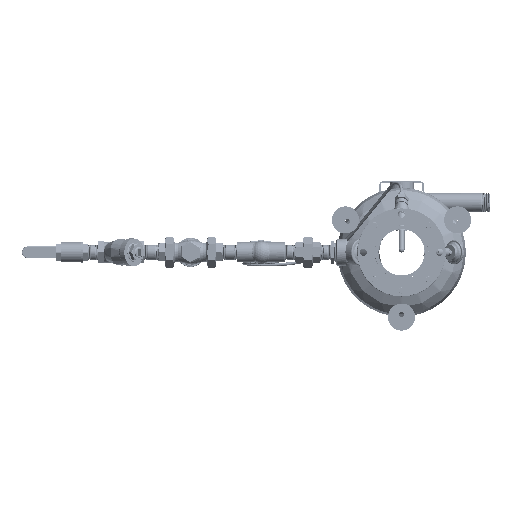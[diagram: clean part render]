
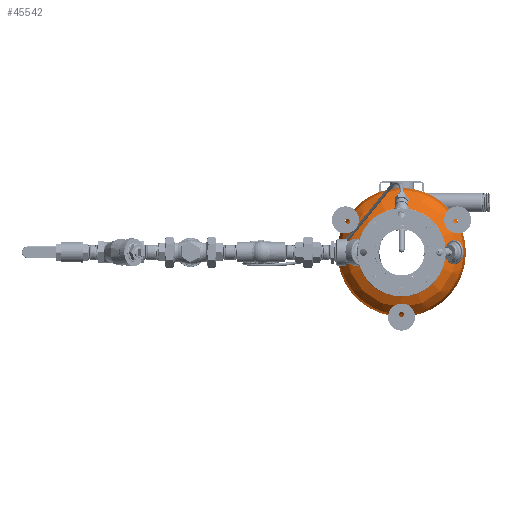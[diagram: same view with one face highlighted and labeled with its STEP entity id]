
A CAD part, front view. The second image highlights one B-rep face of the part: STEP entity #45542.
In plain terms, the highlighted free-form (B-spline) face has degree [2, 2] with [3, 9] control points.
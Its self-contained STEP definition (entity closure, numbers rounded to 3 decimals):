
#737=ELLIPSE('',#48878,8.,4.);
#799=(
BOUNDED_SURFACE()
B_SPLINE_SURFACE(2,2,((#85959,#85960,#85961,#85962,#85963,#85964,#85965,
#85966,#85967),(#85968,#85969,#85970,#85971,#85972,#85973,#85974,#85975,
#85976),(#85977,#85978,#85979,#85980,#85981,#85982,#85983,#85984,#85985)),
 .UNSPECIFIED.,.F.,.T.,.F.)
B_SPLINE_SURFACE_WITH_KNOTS((3,3),(3,2,2,2,3),(0.,1.571),
(0.,1.571,3.142,4.712,6.283),
 .UNSPECIFIED.)
GEOMETRIC_REPRESENTATION_ITEM()
RATIONAL_B_SPLINE_SURFACE(((1.,0.707,1.,0.707,1.,
0.707,1.,0.707,1.),(0.707,0.5,0.707,
0.5,0.707,0.5,0.707,0.5,0.707),(1.,
0.707,1.,0.707,1.,0.707,1.,0.707,
1.)))
REPRESENTATION_ITEM('')
SURFACE()
);
#4671=CIRCLE('',#48879,8.);
#4672=CIRCLE('',#48880,8.);
#7032=FACE_OUTER_BOUND('',#9672,.T.);
#9672=EDGE_LOOP('',(#31122,#31123,#31124,#31125,#31126,#31127));
#17143=B_SPLINE_CURVE_WITH_KNOTS('',3,(#85751,#85752,#85753,#85754,#85755,
#85756,#85757,#85758,#85759,#85760,#85761,#85762,#85763,#85764,#85765,#85766,
#85767,#85768,#85769,#85770),.UNSPECIFIED.,.F.,.F.,(4,2,2,2,2,2,2,2,2,4),
(-39.773,-39.441,-36.155,-32.868,
-29.581,-26.294,-23.007,-19.721,
-16.434,-13.258),.UNSPECIFIED.);
#17144=B_SPLINE_CURVE_WITH_KNOTS('',3,(#85771,#85772,#85773,#85774,#85775,
#85776,#85777,#85778,#85779,#85780,#85781,#85782,#85783,#85784,#85785,#85786,
#85787,#85788,#85789,#85790,#85791,#85792,#85793),.UNSPECIFIED.,.F.,.F.,
(4,2,2,2,2,3,2,2,2,2,4),(-13.258,-13.147,-9.86,
-6.574,-3.287,0.,1.861,3.722,
7.009,10.295,13.251),.UNSPECIFIED.);
#19166=VERTEX_POINT('',#85748);
#19167=VERTEX_POINT('',#85750);
#19171=VERTEX_POINT('',#85986);
#19172=VERTEX_POINT('',#85988);
#23839=EDGE_CURVE('',#19167,#19166,#17143,.T.);
#23840=EDGE_CURVE('',#19166,#19167,#17144,.T.);
#23846=EDGE_CURVE('',#19171,#19167,#737,.T.);
#23847=EDGE_CURVE('',#19172,#19171,#4671,.T.);
#23848=EDGE_CURVE('',#19171,#19172,#4672,.T.);
#31122=ORIENTED_EDGE('',*,*,#23839,.T.);
#31123=ORIENTED_EDGE('',*,*,#23840,.T.);
#31124=ORIENTED_EDGE('',*,*,#23846,.F.);
#31125=ORIENTED_EDGE('',*,*,#23847,.F.);
#31126=ORIENTED_EDGE('',*,*,#23848,.F.);
#31127=ORIENTED_EDGE('',*,*,#23846,.T.);
#45542=ADVANCED_FACE('',(#7032),#799,.T.);
#48878=AXIS2_PLACEMENT_3D('',#85987,#53948,#53949);
#48879=AXIS2_PLACEMENT_3D('',#85989,#53950,#53951);
#48880=AXIS2_PLACEMENT_3D('',#85990,#53952,#53953);
#53948=DIRECTION('center_axis',(0.,0.,1.));
#53949=DIRECTION('ref_axis',(1.,0.,0.));
#53950=DIRECTION('center_axis',(0.,-1.,0.));
#53951=DIRECTION('ref_axis',(1.,0.,0.));
#53952=DIRECTION('center_axis',(0.,-1.,0.));
#53953=DIRECTION('ref_axis',(1.,0.,0.));
#85748=CARTESIAN_POINT('',(-3.313,5.641,0.));
#85750=CARTESIAN_POINT('',(3.313,5.641,0.));
#85751=CARTESIAN_POINT('Ctrl Pts',(3.313,5.641,0.));
#85752=CARTESIAN_POINT('Ctrl Pts',(3.313,5.641,0.043));
#85753=CARTESIAN_POINT('Ctrl Pts',(3.312,5.641,0.087));
#85754=CARTESIAN_POINT('Ctrl Pts',(3.293,5.641,0.561));
#85755=CARTESIAN_POINT('Ctrl Pts',(3.192,5.641,0.985));
#85756=CARTESIAN_POINT('Ctrl Pts',(2.833,5.641,1.77));
#85757=CARTESIAN_POINT('Ctrl Pts',(2.579,5.641,2.123));
#85758=CARTESIAN_POINT('Ctrl Pts',(1.949,5.641,2.713));
#85759=CARTESIAN_POINT('Ctrl Pts',(1.58,5.641,2.943));
#85760=CARTESIAN_POINT('Ctrl Pts',(0.774,5.641,3.25));
#85761=CARTESIAN_POINT('Ctrl Pts',(0.344,5.641,3.323));
#85762=CARTESIAN_POINT('Ctrl Pts',(-0.518,5.641,
3.3));
#85763=CARTESIAN_POINT('Ctrl Pts',(-0.943,5.641,
3.205));
#85764=CARTESIAN_POINT('Ctrl Pts',(-1.732,5.641,2.856));
#85765=CARTESIAN_POINT('Ctrl Pts',(-2.089,5.641,2.607));
#85766=CARTESIAN_POINT('Ctrl Pts',(-2.687,5.641,1.985));
#85767=CARTESIAN_POINT('Ctrl Pts',(-2.922,5.641,1.618));
#85768=CARTESIAN_POINT('Ctrl Pts',(-3.234,5.641,0.83));
#85769=CARTESIAN_POINT('Ctrl Pts',(-3.313,5.641,0.417));
#85770=CARTESIAN_POINT('Ctrl Pts',(-3.313,5.641,0.));
#85771=CARTESIAN_POINT('Ctrl Pts',(-3.313,5.641,0.));
#85772=CARTESIAN_POINT('Ctrl Pts',(-3.313,5.641,-0.014));
#85773=CARTESIAN_POINT('Ctrl Pts',(-3.312,5.641,-0.029));
#85774=CARTESIAN_POINT('Ctrl Pts',(-3.307,5.641,-0.475));
#85775=CARTESIAN_POINT('Ctrl Pts',(-3.217,5.641,-0.901));
#85776=CARTESIAN_POINT('Ctrl Pts',(-2.879,5.641,-1.695));
#85777=CARTESIAN_POINT('Ctrl Pts',(-2.634,5.641,-2.055));
#85778=CARTESIAN_POINT('Ctrl Pts',(-2.02,5.641,-2.661));
#85779=CARTESIAN_POINT('Ctrl Pts',(-1.657,5.641,-2.901));
#85780=CARTESIAN_POINT('Ctrl Pts',(-0.859,5.641,
-3.228));
#85781=CARTESIAN_POINT('Ctrl Pts',(-0.431,5.641,
-3.312));
#85782=CARTESIAN_POINT('Ctrl Pts',(0.,5.641,
-3.312));
#85783=CARTESIAN_POINT('Ctrl Pts',(0.244,5.641,-3.312));
#85784=CARTESIAN_POINT('Ctrl Pts',(0.488,5.641,-3.285));
#85785=CARTESIAN_POINT('Ctrl Pts',(0.964,5.641,-3.178));
#85786=CARTESIAN_POINT('Ctrl Pts',(1.196,5.641,-3.099));
#85787=CARTESIAN_POINT('Ctrl Pts',(1.807,5.641,-2.81));
#85788=CARTESIAN_POINT('Ctrl Pts',(2.157,5.641,-2.551));
#85789=CARTESIAN_POINT('Ctrl Pts',(2.738,5.641,-1.914));
#85790=CARTESIAN_POINT('Ctrl Pts',(2.964,5.641,-1.541));
#85791=CARTESIAN_POINT('Ctrl Pts',(3.245,5.641,-0.772));
#85792=CARTESIAN_POINT('Ctrl Pts',(3.312,5.641,-0.387));
#85793=CARTESIAN_POINT('Ctrl Pts',(3.313,5.641,0.));
#85959=CARTESIAN_POINT('Ctrl Pts',(8.,2.,0.));
#85960=CARTESIAN_POINT('Ctrl Pts',(8.,2.,8.));
#85961=CARTESIAN_POINT('Ctrl Pts',(0.,2.,8.));
#85962=CARTESIAN_POINT('Ctrl Pts',(-8.,2.,8.));
#85963=CARTESIAN_POINT('Ctrl Pts',(-8.,2.,0.));
#85964=CARTESIAN_POINT('Ctrl Pts',(-8.,2.,-8.));
#85965=CARTESIAN_POINT('Ctrl Pts',(0.,2.,-8.));
#85966=CARTESIAN_POINT('Ctrl Pts',(8.,2.,-8.));
#85967=CARTESIAN_POINT('Ctrl Pts',(8.,2.,0.));
#85968=CARTESIAN_POINT('Ctrl Pts',(8.,6.,0.));
#85969=CARTESIAN_POINT('Ctrl Pts',(8.,6.,8.));
#85970=CARTESIAN_POINT('Ctrl Pts',(0.,6.,8.));
#85971=CARTESIAN_POINT('Ctrl Pts',(-8.,6.,8.));
#85972=CARTESIAN_POINT('Ctrl Pts',(-8.,6.,0.));
#85973=CARTESIAN_POINT('Ctrl Pts',(-8.,6.,-8.));
#85974=CARTESIAN_POINT('Ctrl Pts',(0.,6.,-8.));
#85975=CARTESIAN_POINT('Ctrl Pts',(8.,6.,-8.));
#85976=CARTESIAN_POINT('Ctrl Pts',(8.,6.,0.));
#85977=CARTESIAN_POINT('Ctrl Pts',(0.,6.,0.));
#85978=CARTESIAN_POINT('Ctrl Pts',(0.,6.,0.));
#85979=CARTESIAN_POINT('Ctrl Pts',(0.,6.,0.));
#85980=CARTESIAN_POINT('Ctrl Pts',(0.,6.,0.));
#85981=CARTESIAN_POINT('Ctrl Pts',(0.,6.,0.));
#85982=CARTESIAN_POINT('Ctrl Pts',(0.,6.,0.));
#85983=CARTESIAN_POINT('Ctrl Pts',(0.,6.,0.));
#85984=CARTESIAN_POINT('Ctrl Pts',(0.,6.,0.));
#85985=CARTESIAN_POINT('Ctrl Pts',(0.,6.,0.));
#85986=CARTESIAN_POINT('',(8.,2.,0.));
#85987=CARTESIAN_POINT('Origin',(0.,2.,0.));
#85988=CARTESIAN_POINT('',(-8.,2.,0.));
#85989=CARTESIAN_POINT('Origin',(0.,2.,0.));
#85990=CARTESIAN_POINT('Origin',(0.,2.,0.));
